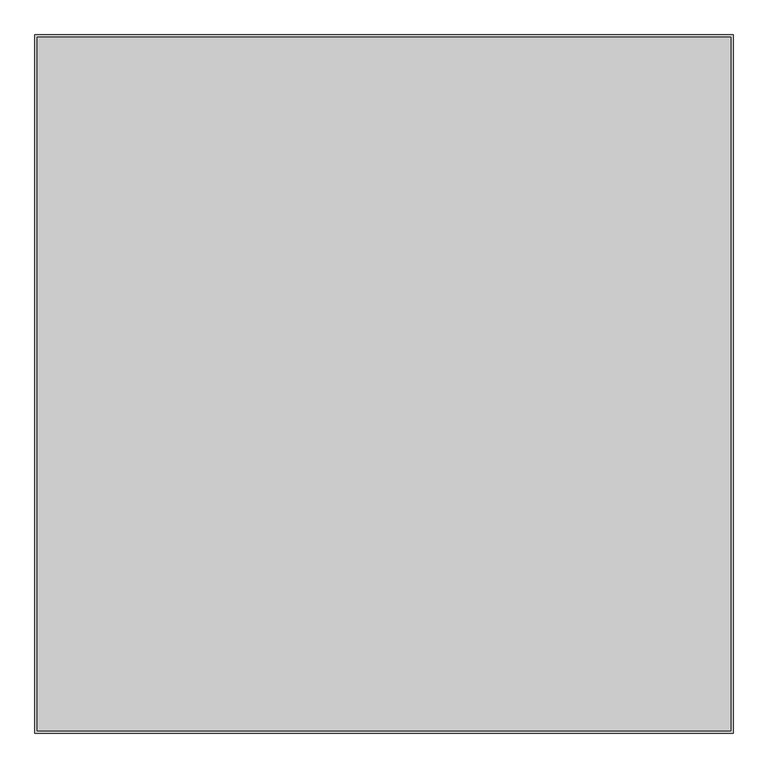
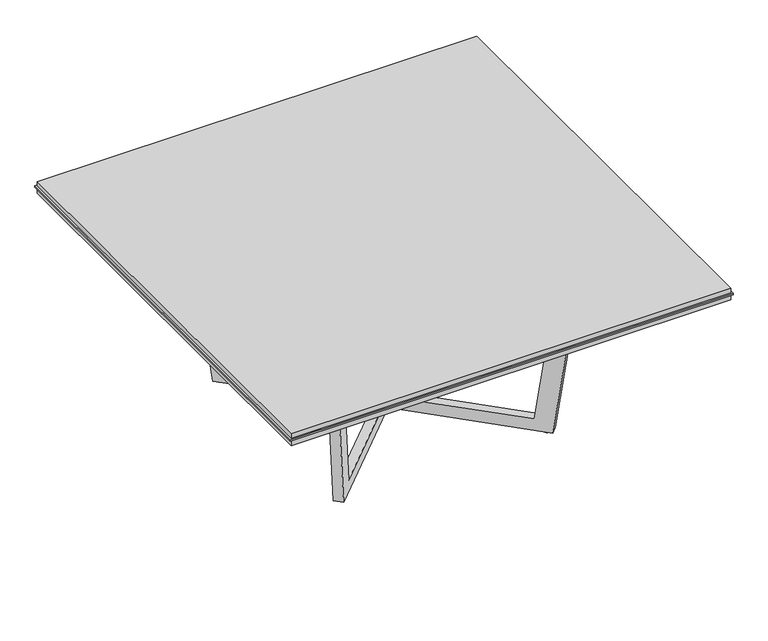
"""IFC4 building model written with IfcOpenShell, lengths in millimetres: furniture geometry, Knoll_Datesweiser_Tables_Meeting_Highline_Square : 72W Caesartone Open."""

from ifc_helpers import new_model, si_unit, point, frame, frame_2d, origin, origin_with_axes, place, context, project, spatial, polyline, circle_curve, trimmed, segment, composite_curve, outline, extrude, source, transform, mapped, element, save


def furniture_983f7934(model_context):
    return source(origin(), model_context, "Body", "SweptSolid", [
        extrude(outline(polyline([(914.4, 914.4), (914.4, -914.4), (-914.4, -914.4), (-914.4, 914.4), (914.4, 914.4)])), frame((0.0, 0.0, 698.5), z_axis=(0.0, 0.0, 1.0), x_axis=(1.0, 0.0, 0.0)), (0.0, 0.0, 1.0), 25.4),
        extrude(outline(polyline([(914.4, 914.4), (914.4, -914.4), (-914.4, -914.4), (-914.4, 914.4), (914.4, 914.4)])), frame((0.0, 0.0, 730.25), z_axis=(0.0, 0.0, 1.0), x_axis=(1.0, 0.0, 0.0)), (0.0, 0.0, 1.0), 19.05),
        extrude(outline(polyline([(920.75, 920.75), (920.75, -920.75), (-920.75, -920.75), (-920.75, 920.75), (920.75, 920.75)])), frame((0.0, 0.0, 723.9), z_axis=(0.0, 0.0, 1.0), x_axis=(1.0, 0.0, 0.0)), (0.0, 0.0, 1.0), 6.35),
        extrude(outline(composite_curve([segment(trimmed(circle_curve(frame_2d((-430.2420161, -430.2420161)), 12.7), [point((-417.5420161, -430.2420161))], [point((-442.9420161, -430.2420161))], False, "CARTESIAN"), True, "CONTINUOUS"), segment(trimmed(circle_curve(frame_2d((-430.2420161, -430.2420161)), 12.7), [point((-442.9420161, -430.2420161))], [point((-417.5420161, -430.2420161))], False, "CARTESIAN"), True, "CONTINUOUS")], self_intersect=False)), origin_with_axes(), (0.0, 0.0, 1.0), 5.9867797),
        extrude(outline(composite_curve([segment(trimmed(circle_curve(frame_2d((-430.2420161, 430.2420161)), 12.7), [point((-417.5420161, 430.2420161))], [point((-442.9420161, 430.2420161))], False, "CARTESIAN"), True, "CONTINUOUS"), segment(trimmed(circle_curve(frame_2d((-430.2420161, 430.2420161)), 12.7), [point((-442.9420161, 430.2420161))], [point((-417.5420161, 430.2420161))], False, "CARTESIAN"), True, "CONTINUOUS")], self_intersect=False)), origin_with_axes(), (0.0, 0.0, 1.0), 5.9867797),
        extrude(outline(composite_curve([segment(trimmed(circle_curve(frame_2d((430.2420161, -430.2420161)), 12.7), [point((442.9420161, -430.2420161))], [point((417.5420161, -430.2420161))], False, "CARTESIAN"), True, "CONTINUOUS"), segment(trimmed(circle_curve(frame_2d((430.2420161, -430.2420161)), 12.7), [point((417.5420161, -430.2420161))], [point((442.9420161, -430.2420161))], False, "CARTESIAN"), True, "CONTINUOUS")], self_intersect=False)), origin_with_axes(), (0.0, 0.0, 1.0), 5.9867797),
        extrude(outline(composite_curve([segment(trimmed(circle_curve(frame_2d((430.2420161, 430.2420161)), 12.7), [point((442.9420161, 430.2420161))], [point((417.5420161, 430.2420161))], False, "CARTESIAN"), True, "CONTINUOUS"), segment(trimmed(circle_curve(frame_2d((430.2420161, 430.2420161)), 12.7), [point((417.5420161, 430.2420161))], [point((442.9420161, 430.2420161))], False, "CARTESIAN"), True, "CONTINUOUS")], self_intersect=False)), origin_with_axes(), (0.0, 0.0, 1.0), 5.9867797),
        extrude(outline(polyline([(633.7990639, 0.0), (1267.5960015, 1.6418154), (1365.8753618, -691.1402556), (1289.3280631, -691.2394011), (1198.2722297, -49.376762), (633.8639645, -50.1077947), (69.4556995, -50.8388274), (-19.937125, -692.9351873), (-96.4844236, -693.0343328), (0.0, 0.0), (633.7990639, 0.0)])), frame((-461.3328396, 434.6928596, 5.5912411), z_axis=(0.7071067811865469, 0.7071067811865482, 0.0), x_axis=(0.707106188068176, -0.7071061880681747, 0.0012952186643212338)), (0.0, 0.0, 1.0), 37.6746211),
        extrude(outline(polyline([(633.799064, 0.0), (1267.5960015, 1.6418154), (1365.8753618, -691.1402556), (1289.3280632, -691.2394011), (1198.2722297, -49.376762), (633.8639646, -50.1077947), (69.4556995, -50.8388274), (-19.9371249, -692.9351873), (-96.4844235, -693.0343328), (0.0, 0.0), (633.799064, 0.0)])), frame((-434.6928596, -461.6336207, 5.5912411), z_axis=(-0.707106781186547, 0.7071067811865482, 0.0), x_axis=(0.7071061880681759, 0.7071061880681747, 0.0012952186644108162)), (0.0, 0.0, 1.0), 37.6746211),
    ])


if __name__ == "__main__":
    model = new_model("IFC4")
    model_context = context("Model", 3, world=origin())
    ifc_project = project(units=[si_unit("LENGTHUNIT", "METRE", prefix="MILLI")], contexts=[model_context])
    site = spatial("IfcSite", under=ifc_project)
    building = spatial("IfcBuilding", under=site)
    placement = place(None, origin())
    furniture_shape = furniture_983f7934(model_context)
    element("IfcFurniture", 1, ObjectType="Knoll_Datesweiser_Tables_Meeting_Highline_Square : 72W Caesartone Open", at=placement, inside=building, context=model_context, shape_type="MappedRepresentation", body=[
        mapped(furniture_shape, transform((0.0, 0.0, 0.0), x_axis=(1.0, 0.0, 0.0), y_axis=(0.0, 1.0, 0.0), z_axis=(0.0, 0.0, 1.0))),
    ])
    save(model, "model.ifc")
